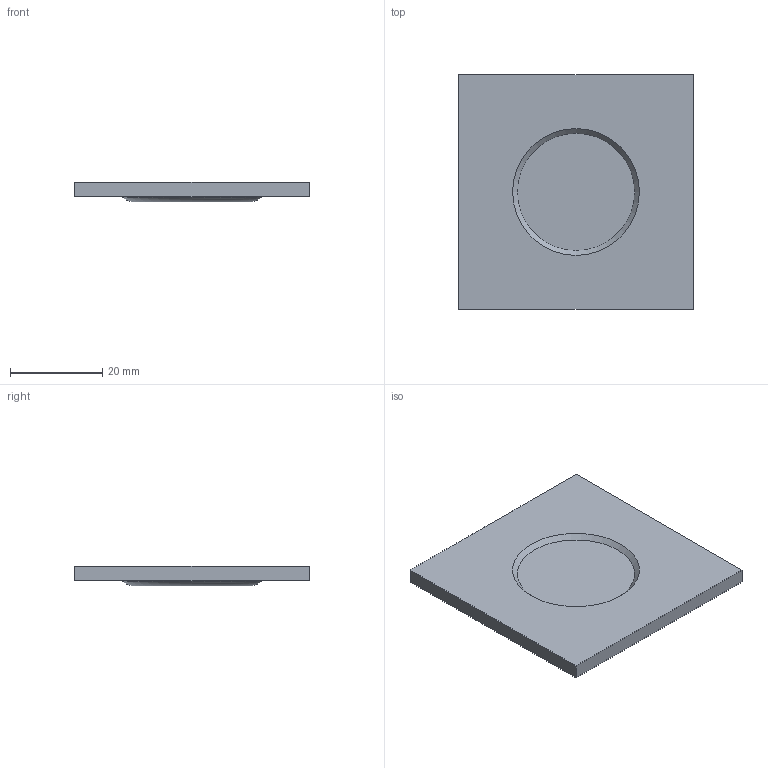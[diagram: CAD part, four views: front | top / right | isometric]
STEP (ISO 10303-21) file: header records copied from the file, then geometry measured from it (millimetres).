
FILE_DESCRIPTION((''),'1');
FILE_NAME('C:/Users/ericfrey.TRIAX/Documents/Desktop/436-0443-00 REV 02 DIMPLE TOOL.stp', '2014-09-04T16:33:33',(''), (''), 'KCM Version 1.1.1028.0', 'Kubotek KeyCreator', '');
FILE_SCHEMA(('AUTOMOTIVE_DESIGN'));
Length unit declared in the file: inch
Bounding box: 50.8 x 50.8 x 4.19 mm (x, y, z)
Volume: 8290.9 mm3; surface area: 5867.3 mm2
Topology: 1 solids, 1 shells, 11 faces, 20 edges, 13 vertices
Faces by surface type: plane 8, cone 2, torus 1
Entity records: 297 total; most frequent: DIRECTION 50, CARTESIAN_POINT 45, ORIENTED_EDGE 40, EDGE_CURVE 20, AXIS2_PLACEMENT_3D 18, VECTOR 14, LINE 14, VERTEX_POINT 13
